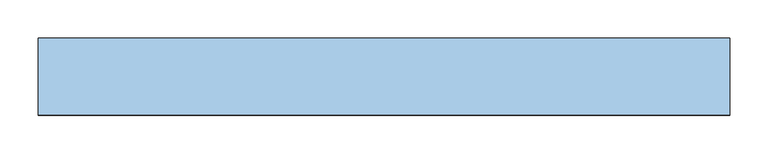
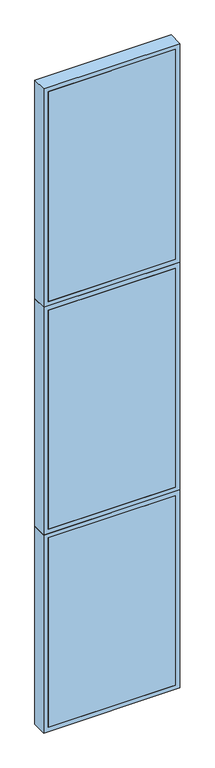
"""IFC4 building model written with IfcOpenShell, lengths in millimetres: window geometry, TRP_CP_ARC_FI_V1 : AL_P03_90."""

from ifc_helpers import new_model, si_unit, frame, origin, place, context, project, spatial, polyline, outline, extrude, source, transform, mapped, element, save


def window_09fc64a4(model_context):
    return source(origin(), model_context, "Body", "SweptSolid", [
        extrude(outline(polyline([(420.0, -50.0), (-420.0, -50.0), (-420.0, -30.0), (420.0, -30.0), (420.0, -50.0)])), frame((0.0, 0.0, 30.0), z_axis=(0.0, 0.0, 1.0), x_axis=(1.0, 0.0, 0.0)), (0.0, 0.0, 1.0), 1323.0),
        extrude(outline(polyline([(1383.0, 450.0), (1383.0, -450.0), (0.0, -450.0), (0.0, 450.0), (1383.0, 450.0)]), holes=[polyline([(30.0, 420.0), (30.0, -420.0), (1353.0, -420.0), (1353.0, 420.0), (30.0, 420.0)])]), frame((0.0, -50.0, 0.0), z_axis=(0.0, 1.0, 0.0), x_axis=(0.0, 0.0, 1.0)), (0.0, 0.0, 1.0), 100.0),
        extrude(outline(polyline([(2973.0, 450.0), (2973.0, -450.0), (1383.0, -450.0), (1383.0, 450.0), (2973.0, 450.0)]), holes=[polyline([(1413.0, 420.0), (1413.0, -420.0), (2943.0, -420.0), (2943.0, 420.0), (1413.0, 420.0)])]), frame((0.0, -50.0, 0.0), z_axis=(0.0, 1.0, 0.0), x_axis=(0.0, 0.0, 1.0)), (0.0, 0.0, 1.0), 100.0),
        extrude(outline(polyline([(420.0, -50.0), (-420.0, -50.0), (-420.0, -30.0), (420.0, -30.0), (420.0, -50.0)])), frame((0.0, 0.0, 1413.0), z_axis=(0.0, 0.0, 1.0), x_axis=(1.0, 0.0, 0.0)), (0.0, 0.0, 1.0), 1530.0),
        extrude(outline(polyline([(4500.0, 450.0), (4500.0, -450.0), (2973.0, -450.0), (2973.0, 450.0), (4500.0, 450.0)]), holes=[polyline([(3003.0, 420.0), (3003.0, -420.0), (4470.0, -420.0), (4470.0, 420.0), (3003.0, 420.0)])]), frame((0.0, -50.0, 0.0), z_axis=(0.0, 1.0, 0.0), x_axis=(0.0, 0.0, 1.0)), (0.0, 0.0, 1.0), 100.0),
        extrude(outline(polyline([(420.0, -50.0), (-420.0, -50.0), (-420.0, -30.0), (420.0, -30.0), (420.0, -50.0)])), frame((0.0, 0.0, 3003.0), z_axis=(0.0, 0.0, 1.0), x_axis=(1.0, 0.0, 0.0)), (0.0, 0.0, 1.0), 1467.0),
    ])


if __name__ == "__main__":
    model = new_model("IFC4")
    model_context = context("Model", 3, world=origin())
    ifc_project = project(units=[si_unit("LENGTHUNIT", "METRE", prefix="MILLI")], contexts=[model_context])
    site = spatial("IfcSite", under=ifc_project)
    building = spatial("IfcBuilding", under=site)
    placement = place(None, origin())
    window_shape = window_09fc64a4(model_context)
    element("IfcWindow", 1, ObjectType="TRP_CP_ARC_FI_V1 : AL_P03_90", at=placement, inside=building, context=model_context, shape_type="MappedRepresentation", body=[
        mapped(window_shape, transform((0.0, 0.0, 0.0), x_axis=(1.0, 0.0, 0.0), y_axis=(0.0, 1.0, 0.0), z_axis=(0.0, 0.0, 1.0))),
    ])
    save(model, "model.ifc")
